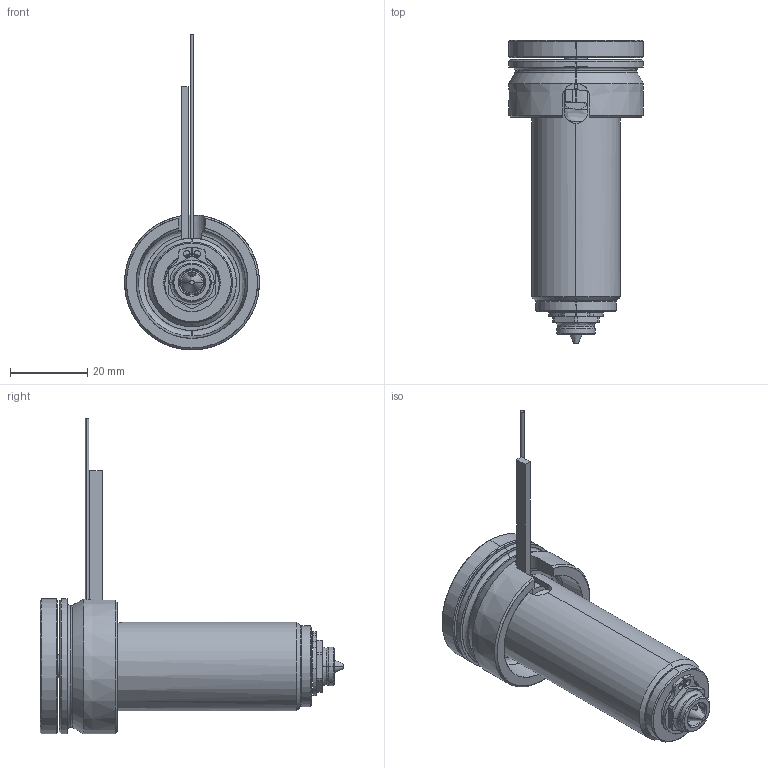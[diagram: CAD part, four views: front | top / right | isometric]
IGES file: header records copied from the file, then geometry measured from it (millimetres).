
Start section: SolidWorks IGES file using analytic representation for surfaces
Global section: file name: C:\Documents and Settings\ws-20\Desktop\TEM\UGEP3051-S-A-0 [Øf-1.10 ØC-6.0].IGS; native system: SolidWorks 2012; preprocessor: SolidWorks 2012; author: ws-20; date: 120402.112254; units: millimetre
Bounding box: 35 x 78.8 x 81.9 mm (x, y, z)
Surface area: 18231.2 mm2 (no closed solid volume)
Topology: 0 solids, 0 shells, 139 faces, 2208 edges, 2208 vertices
Faces by surface type: revolution 85, bspline 54
